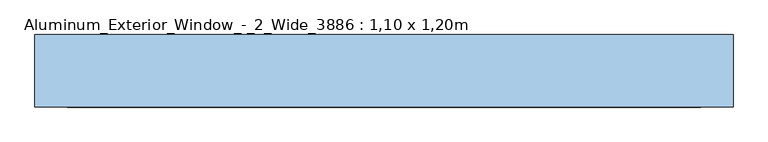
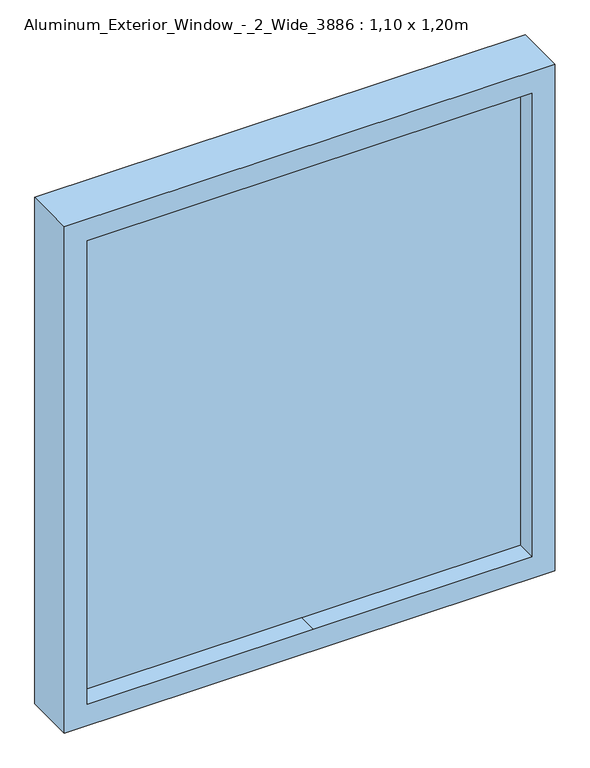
"""IFC4 building model written with IfcOpenShell, lengths in millimetres: window geometry, Aluminum_Exterior_Window_-_2_Wide_3886 : 1,10 x 1,20m."""

from ifc_helpers import new_model, si_unit, frame, origin, place, context, project, spatial, polyline, outline, extrude, source, transform, mapped, element, save


def aluminum_exterior_window_2_wide_3886_1_10_x_1_20m_a2e28436(model_context):
    return source(origin(), model_context, "Body", "SweptSolid", [
        extrude(outline(polyline([(2260.0, -1371.6), (1060.0, -1371.6), (1060.0, -271.6), (2260.0, -271.6), (2260.0, -1371.6)]), holes=[polyline([(2209.2, -847.0), (2209.2, -322.4), (1110.8, -322.4), (1110.8, -813.8808837), (1110.8, -1320.8), (2209.2, -1320.8), (2209.2, -847.0)])]), frame((0.0, -38.1424754, 0.0), z_axis=(0.0, 1.0, 0.0), x_axis=(0.0, 0.0, 1.0)), (0.0, 0.0, 1.0), 114.3),
        extrude(outline(polyline([(2209.2, -847.0), (2209.2, -1320.8), (1110.8, -1320.8), (1110.8, -820.891469), (1110.8, -322.4), (2209.2, -322.4), (2209.2, -847.0)])), frame((0.0, 6.3075246, 0.0), z_axis=(0.0, 1.0, 0.0), x_axis=(0.0, 0.0, 1.0)), (0.0, 0.0, 1.0), 25.4),
    ])


if __name__ == "__main__":
    model = new_model("IFC4")
    model_context = context("Model", 3, world=origin())
    ifc_project = project(units=[si_unit("LENGTHUNIT", "METRE", prefix="MILLI")], contexts=[model_context])
    site = spatial("IfcSite", under=ifc_project)
    building = spatial("IfcBuilding", under=site)
    placement = place(None, origin())
    aluminum_exterior_window_2_wide_3886_1_10_x_1_20m_shape = aluminum_exterior_window_2_wide_3886_1_10_x_1_20m_a2e28436(model_context)
    element("IfcWindow", 1, ObjectType="Aluminum_Exterior_Window_-_2_Wide_3886 : 1,10 x 1,20m", at=placement, inside=building, context=model_context, shape_type="MappedRepresentation", body=[
        mapped(aluminum_exterior_window_2_wide_3886_1_10_x_1_20m_shape, transform((0.0, 0.0, 0.0), x_axis=(1.0, 0.0, 0.0), y_axis=(0.0, 1.0, 0.0), z_axis=(0.0, 0.0, 1.0))),
    ])
    save(model, "model.ifc")
